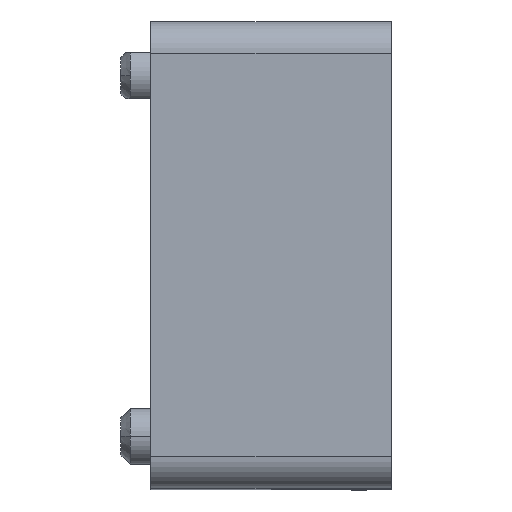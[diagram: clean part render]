
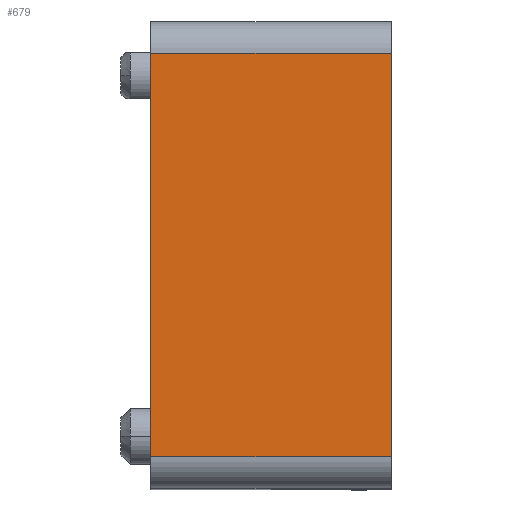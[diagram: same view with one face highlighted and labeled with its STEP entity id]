
A CAD part, top view. The second image highlights one B-rep face of the part: STEP entity #679.
In plain terms, the highlighted planar face has unit normal (0, 0, 1).
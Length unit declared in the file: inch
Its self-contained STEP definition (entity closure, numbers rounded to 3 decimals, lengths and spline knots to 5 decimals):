
#51 = LINE ( 'NONE', #134, #7016 ) ;
#134 = CARTESIAN_POINT ( 'NONE',  ( -0.25, 0.5, 1.25 ) ) ;
#679 = ADVANCED_FACE ( 'NONE', ( #3785 ), #11567, .F. ) ;
#1477 = AXIS2_PLACEMENT_3D ( 'NONE', #16609, #9002, #6518 ) ;
#1793 = CARTESIAN_POINT ( 'NONE',  ( 0.25, -0.41937, 1.25 ) ) ;
#2434 = EDGE_CURVE ( 'NONE', #12252, #15559, #51, .T. ) ;
#2983 = EDGE_CURVE ( 'NONE', #4126, #12561, #4002, .T. ) ;
#3675 = LINE ( 'NONE', #5220, #15810 ) ;
#3785 = FACE_OUTER_BOUND ( 'NONE', #13532, .T. ) ;
#4002 = LINE ( 'NONE', #10165, #16035 ) ;
#4126 = VERTEX_POINT ( 'NONE', #10818 ) ;
#4321 = ORIENTED_EDGE ( 'NONE', *, *, #13569, .F. ) ;
#5220 = CARTESIAN_POINT ( 'NONE',  ( 0.25, 0.41937, 1.25 ) ) ;
#6315 = CARTESIAN_POINT ( 'NONE',  ( 0.25, -0.41937, 1.25 ) ) ;
#6518 = DIRECTION ( 'NONE',  ( -1., 0., 0. ) ) ;
#6622 = ORIENTED_EDGE ( 'NONE', *, *, #11610, .T. ) ;
#7016 = VECTOR ( 'NONE', #14429, 39.37008 ) ;
#7690 = ORIENTED_EDGE ( 'NONE', *, *, #2434, .T. ) ;
#8221 = LINE ( 'NONE', #1793, #11036 ) ;
#9002 = DIRECTION ( 'NONE',  ( 0., 0., -1. ) ) ;
#9213 = DIRECTION ( 'NONE',  ( 0., -1., 0. ) ) ;
#9768 = CARTESIAN_POINT ( 'NONE',  ( -0.25, 0.41937, 1.25 ) ) ;
#10165 = CARTESIAN_POINT ( 'NONE',  ( 0.25, 0.5, 1.25 ) ) ;
#10818 = CARTESIAN_POINT ( 'NONE',  ( 0.25, 0.41937, 1.25 ) ) ;
#11036 = VECTOR ( 'NONE', #11125, 39.37008 ) ;
#11125 = DIRECTION ( 'NONE',  ( -1., 0., 0. ) ) ;
#11567 = PLANE ( 'NONE',  #1477 ) ;
#11610 = EDGE_CURVE ( 'NONE', #4126, #12252, #3675, .T. ) ;
#11961 = CARTESIAN_POINT ( 'NONE',  ( -0.25, -0.41937, 1.25 ) ) ;
#12252 = VERTEX_POINT ( 'NONE', #9768 ) ;
#12561 = VERTEX_POINT ( 'NONE', #6315 ) ;
#12910 = DIRECTION ( 'NONE',  ( -1., 0., 0. ) ) ;
#13518 = ORIENTED_EDGE ( 'NONE', *, *, #2983, .F. ) ;
#13532 = EDGE_LOOP ( 'NONE', ( #6622, #7690, #4321, #13518 ) ) ;
#13569 = EDGE_CURVE ( 'NONE', #12561, #15559, #8221, .T. ) ;
#14429 = DIRECTION ( 'NONE',  ( 0., -1., 0. ) ) ;
#15559 = VERTEX_POINT ( 'NONE', #11961 ) ;
#15810 = VECTOR ( 'NONE', #12910, 39.37008 ) ;
#16035 = VECTOR ( 'NONE', #9213, 39.37008 ) ;
#16609 = CARTESIAN_POINT ( 'NONE',  ( 0.25, 0.5, 1.25 ) ) ;
